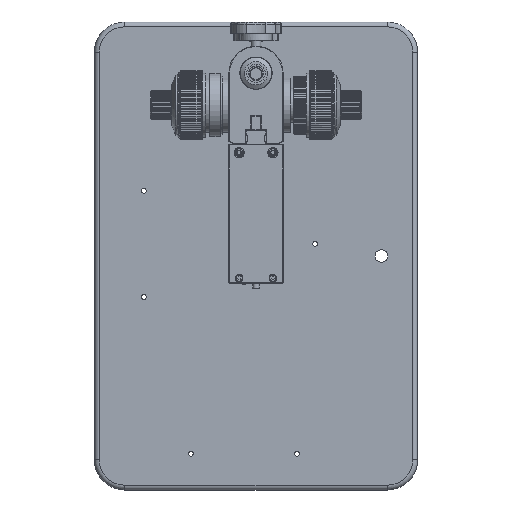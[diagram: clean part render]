
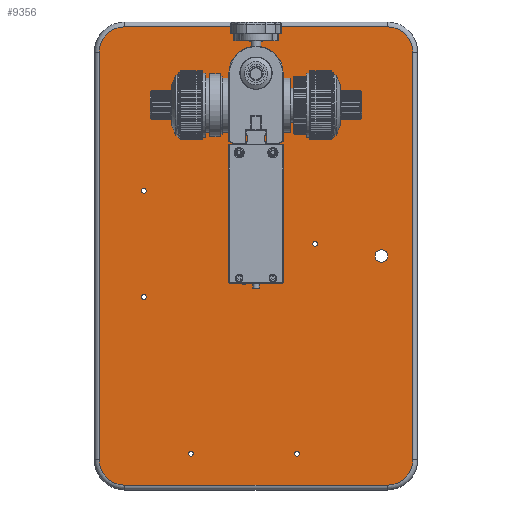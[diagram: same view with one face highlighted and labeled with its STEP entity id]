
A CAD part, top view. The second image highlights one B-rep face of the part: STEP entity #9356.
In plain terms, the highlighted planar face has unit normal (0, 0, 1).
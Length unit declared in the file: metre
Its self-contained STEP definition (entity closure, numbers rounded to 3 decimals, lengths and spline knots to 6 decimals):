
#9356=ADVANCED_FACE('0:56599',(#27411,#27412,#27413,#27414,#27415,#27416,#27417,#27418,#27419,#27420),#27421,.T.);
#10054=EDGE_CURVE('0:57925',#28480,#28480,#28481,.T.);
#10102=EDGE_CURVE('0:57967',#28539,#28546,#28549,.T.);
#10342=EDGE_CURVE('0:57937',#28888,#28888,#28889,.T.);
#10350=EDGE_CURVE('0:57928',#28899,#28899,#28900,.T.);
#10610=EDGE_CURVE('0:57952',#29247,#29244,#29248,.T.);
#10710=EDGE_CURVE('0:57913',#29381,#29381,#29382,.T.);
#10798=EDGE_CURVE('0:57922',#29495,#29495,#29496,.T.);
#10850=EDGE_CURVE('0:57946',#28546,#29558,#29561,.T.);
#10954=EDGE_CURVE('0:57949',#29558,#29247,#29696,.T.);
#10956=EDGE_CURVE('0:57955',#29244,#29698,#29699,.T.);
#10958=EDGE_CURVE('0:57958',#29698,#29701,#29702,.T.);
#10960=EDGE_CURVE('0:57961',#29701,#29704,#29705,.T.);
#10962=EDGE_CURVE('0:57964',#29704,#28539,#29707,.T.);
#10964=EDGE_CURVE('0:57916',#29709,#29709,#29710,.T.);
#10966=EDGE_CURVE('0:57919',#29712,#29712,#29713,.T.);
#10968=EDGE_CURVE('0:57943',#29715,#29715,#29716,.T.);
#10970=EDGE_CURVE('0:57934',#29718,#29718,#29719,.T.);
#27411=FACE_OUTER_BOUND('',#52211,.T.);
#27412=FACE_BOUND('',#52212,.T.);
#27413=FACE_BOUND('',#52213,.T.);
#27414=FACE_BOUND('',#52214,.T.);
#27415=FACE_BOUND('',#52215,.T.);
#27416=FACE_BOUND('',#52216,.T.);
#27417=FACE_BOUND('',#52217,.T.);
#27418=FACE_BOUND('',#52218,.T.);
#27419=FACE_BOUND('',#52219,.T.);
#27420=FACE_BOUND('',#52220,.T.);
#27421=PLANE('',#52221);
#28480=VERTEX_POINT('',#53692);
#28481=CIRCLE('',#53693,0.002);
#28539=VERTEX_POINT('',#53785);
#28546=VERTEX_POINT('',#53794);
#28549=CIRCLE('',#53798,0.021);
#28888=VERTEX_POINT('',#54344);
#28889=CIRCLE('',#54345,0.00525);
#28899=VERTEX_POINT('',#54360);
#28900=CIRCLE('',#54361,0.002);
#29244=VERTEX_POINT('',#54918);
#29247=VERTEX_POINT('',#54922);
#29248=LINE('',#54923,#54924);
#29381=VERTEX_POINT('',#55130);
#29382=CIRCLE('',#55131,0.002);
#29495=VERTEX_POINT('',#55314);
#29496=CIRCLE('',#55315,0.002);
#29558=VERTEX_POINT('',#55416);
#29561=LINE('',#55420,#55421);
#29696=CIRCLE('',#55641,0.021);
#29698=VERTEX_POINT('',#55644);
#29699=CIRCLE('',#55645,0.021);
#29701=VERTEX_POINT('',#55648);
#29702=LINE('',#55649,#55650);
#29704=VERTEX_POINT('',#55653);
#29705=CIRCLE('',#55654,0.021);
#29707=LINE('',#55657,#55658);
#29709=VERTEX_POINT('',#55661);
#29710=CIRCLE('',#55662,0.002);
#29712=VERTEX_POINT('',#55665);
#29713=CIRCLE('',#55666,0.002);
#29715=VERTEX_POINT('',#55669);
#29716=CIRCLE('',#55670,0.00525);
#29718=VERTEX_POINT('',#55673);
#29719=CIRCLE('',#55674,0.00525);
#52211=EDGE_LOOP('',(#128228,#128229,#128230,#128231,#128232,#128233,#128234,#128235));
#52212=EDGE_LOOP('',(#128236));
#52213=EDGE_LOOP('',(#128237));
#52214=EDGE_LOOP('',(#128238));
#52215=EDGE_LOOP('',(#128239));
#52216=EDGE_LOOP('',(#128240));
#52217=EDGE_LOOP('',(#128241));
#52218=EDGE_LOOP('',(#128242));
#52219=EDGE_LOOP('',(#128243));
#52220=EDGE_LOOP('',(#128244));
#52221=AXIS2_PLACEMENT_3D('',#128245,#128246,#128247);
#53692=CARTESIAN_POINT('',(-0.093,0.052,0.026));
#53693=AXIS2_PLACEMENT_3D('',#129733,#129734,#129735);
#53785=CARTESIAN_POINT('',(0.13,0.169,0.026));
#53794=CARTESIAN_POINT('',(0.109,0.19,0.026));
#53798=AXIS2_PLACEMENT_3D('',#129779,#129780,#129781);
#54344=CARTESIAN_POINT('',(0.,0.06375,0.026));
#54345=AXIS2_PLACEMENT_3D('',#129965,#129966,#129967);
#54360=CARTESIAN_POINT('',(0.049,0.008,0.026));
#54361=AXIS2_PLACEMENT_3D('',#129975,#129976,#129977);
#54918=CARTESIAN_POINT('',(-0.13,-0.169,0.026));
#54922=CARTESIAN_POINT('',(-0.13,0.169,0.026));
#54923=CARTESIAN_POINT('',(-0.13,0.,0.026));
#54924=VECTOR('',#130197,1.0);
#55130=CARTESIAN_POINT('',(-0.054,-0.166,0.026));
#55131=AXIS2_PLACEMENT_3D('',#130299,#130300,#130301);
#55314=CARTESIAN_POINT('',(-0.093,-0.036,0.026));
#55315=AXIS2_PLACEMENT_3D('',#130379,#130380,#130381);
#55416=CARTESIAN_POINT('',(-0.109,0.19,0.026));
#55420=CARTESIAN_POINT('',(0.,0.19,0.026));
#55421=VECTOR('',#130429,1.0);
#55641=AXIS2_PLACEMENT_3D('',#130517,#130518,#130519);
#55644=CARTESIAN_POINT('',(-0.109,-0.19,0.026));
#55645=AXIS2_PLACEMENT_3D('',#130520,#130521,#130522);
#55648=CARTESIAN_POINT('',(0.109,-0.19,0.026));
#55649=CARTESIAN_POINT('',(0.,-0.19,0.026));
#55650=VECTOR('',#130523,1.0);
#55653=CARTESIAN_POINT('',(0.13,-0.169,0.026));
#55654=AXIS2_PLACEMENT_3D('',#130524,#130525,#130526);
#55657=CARTESIAN_POINT('',(0.13,0.,0.026));
#55658=VECTOR('',#130527,1.0);
#55661=CARTESIAN_POINT('',(0.034,-0.166,0.026));
#55662=AXIS2_PLACEMENT_3D('',#130528,#130529,#130530);
#55665=CARTESIAN_POINT('',(-0.01,-0.024,0.026));
#55666=AXIS2_PLACEMENT_3D('',#130531,#130532,#130533);
#55669=CARTESIAN_POINT('',(0.,0.14575,0.026));
#55670=AXIS2_PLACEMENT_3D('',#130534,#130535,#130536);
#55673=CARTESIAN_POINT('',(0.104,-0.00525,0.026));
#55674=AXIS2_PLACEMENT_3D('',#130537,#130538,#130539);
#128228=ORIENTED_EDGE('',*,*,#10850,.T.);
#128229=ORIENTED_EDGE('',*,*,#10954,.T.);
#128230=ORIENTED_EDGE('',*,*,#10610,.T.);
#128231=ORIENTED_EDGE('',*,*,#10956,.T.);
#128232=ORIENTED_EDGE('',*,*,#10958,.T.);
#128233=ORIENTED_EDGE('',*,*,#10960,.T.);
#128234=ORIENTED_EDGE('',*,*,#10962,.T.);
#128235=ORIENTED_EDGE('',*,*,#10102,.T.);
#128236=ORIENTED_EDGE('',*,*,#10710,.F.);
#128237=ORIENTED_EDGE('',*,*,#10964,.F.);
#128238=ORIENTED_EDGE('',*,*,#10966,.F.);
#128239=ORIENTED_EDGE('',*,*,#10798,.F.);
#128240=ORIENTED_EDGE('',*,*,#10054,.F.);
#128241=ORIENTED_EDGE('',*,*,#10350,.F.);
#128242=ORIENTED_EDGE('',*,*,#10342,.F.);
#128243=ORIENTED_EDGE('',*,*,#10968,.F.);
#128244=ORIENTED_EDGE('',*,*,#10970,.F.);
#128245=CARTESIAN_POINT('',(0.0,0.0,0.026));
#128246=DIRECTION('',(0.0,0.0,1.0));
#128247=DIRECTION('',(1.0,0.0,0.0));
#129733=CARTESIAN_POINT('',(-0.093,0.054,0.026));
#129734=DIRECTION('',(0.0,0.0,1.0));
#129735=DIRECTION('',(0.,-1.0,0.0));
#129779=CARTESIAN_POINT('',(0.109,0.169,0.026));
#129780=DIRECTION('',(0.0,0.0,1.0));
#129781=DIRECTION('',(0.,-1.0,0.0));
#129965=CARTESIAN_POINT('',(0.,0.069,0.026));
#129966=DIRECTION('',(0.0,0.0,1.0));
#129967=DIRECTION('',(0.,-1.0,0.0));
#129975=CARTESIAN_POINT('',(0.049,0.01,0.026));
#129976=DIRECTION('',(0.0,0.0,1.0));
#129977=DIRECTION('',(0.,-1.0,0.0));
#130197=DIRECTION('',(0.,-1.0,0.0));
#130299=CARTESIAN_POINT('',(-0.054,-0.164,0.026));
#130300=DIRECTION('',(0.0,0.0,1.0));
#130301=DIRECTION('',(0.,-1.0,0.0));
#130379=CARTESIAN_POINT('',(-0.093,-0.034,0.026));
#130380=DIRECTION('',(0.0,0.0,1.0));
#130381=DIRECTION('',(0.,-1.0,0.0));
#130429=DIRECTION('',(-1.0,0.,0.0));
#130517=CARTESIAN_POINT('',(-0.109,0.169,0.026));
#130518=DIRECTION('',(0.0,0.0,1.0));
#130519=DIRECTION('',(0.,-1.0,0.0));
#130520=CARTESIAN_POINT('',(-0.109,-0.169,0.026));
#130521=DIRECTION('',(0.0,0.0,1.0));
#130522=DIRECTION('',(0.,-1.0,0.0));
#130523=DIRECTION('',(1.0,0.,0.0));
#130524=CARTESIAN_POINT('',(0.109,-0.169,0.026));
#130525=DIRECTION('',(0.0,0.0,1.0));
#130526=DIRECTION('',(0.,-1.0,0.0));
#130527=DIRECTION('',(0.,1.0,0.0));
#130528=CARTESIAN_POINT('',(0.034,-0.164,0.026));
#130529=DIRECTION('',(0.0,0.0,1.0));
#130530=DIRECTION('',(0.,-1.0,0.0));
#130531=CARTESIAN_POINT('',(-0.01,-0.022,0.026));
#130532=DIRECTION('',(0.0,0.0,1.0));
#130533=DIRECTION('',(0.,-1.0,0.0));
#130534=CARTESIAN_POINT('',(0.,0.151,0.026));
#130535=DIRECTION('',(0.0,0.0,1.0));
#130536=DIRECTION('',(0.,-1.0,0.0));
#130537=CARTESIAN_POINT('',(0.104,0.,0.026));
#130538=DIRECTION('',(0.0,0.0,1.0));
#130539=DIRECTION('',(0.,-1.0,0.0));
